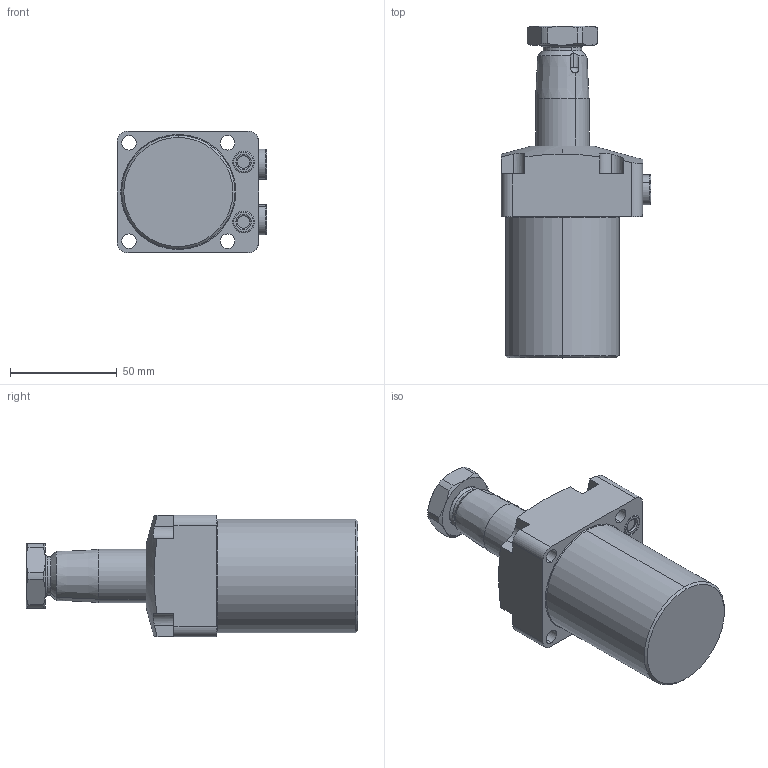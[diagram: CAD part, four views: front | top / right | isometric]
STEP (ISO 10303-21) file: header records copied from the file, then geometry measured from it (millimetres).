
FILE_DESCRIPTION(/* description */ (''),/* implementation_level */ '2;1');
FILE_NAME(/* name */ 'TRC06-LN60.stp',/* time_stamp */ '2025-01-04T10:12:52+08:00',/* author */ (''),/* organization */ (''),/* preprocessor_version */ 'ST-DEVELOPER v16.7',/* originating_system */ 'SIEMENS PLM Software NX 12.0',/* authorisation */ '');
FILE_SCHEMA (('AUTOMOTIVE_DESIGN { 1 0 10303 214 3 1 1 1 }'));
Length unit declared in the file: millimetre
Products named in the file (5): TRC06-LN60-01; TRC06-LN60-02; TRC06-LN60-03; TRC06-LN60-04; TRC06-LN60_stp
Assembly tree (5 placements, depth 2):
  TRC06-LN60_stp
    TRC06-LN60-04  x2
    TRC06-LN60-03
    TRC06-LN60-02
    TRC06-LN60-01
Bounding box: 69.8 x 155.1 x 57 mm (x, y, z)
Volume: 270423.5 mm3; surface area: 38642.2 mm2
Topology: 5 solids, 7 shells, 203 faces, 465 edges, 288 vertices
Faces by surface type: cylinder 73, plane 67, cone 40, torus 22, sphere 1
Entity records: 5410 total; most frequent: CARTESIAN_POINT 1086, DIRECTION 938, ORIENTED_EDGE 836, EDGE_CURVE 418, AXIS2_PLACEMENT_3D 386, VERTEX_POINT 260, EDGE_LOOP 206, CIRCLE 199
